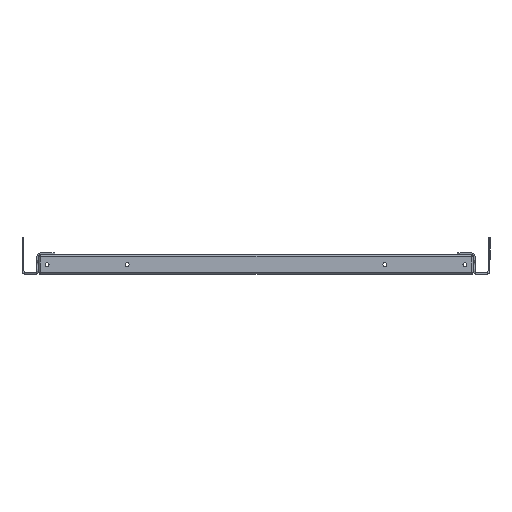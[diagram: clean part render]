
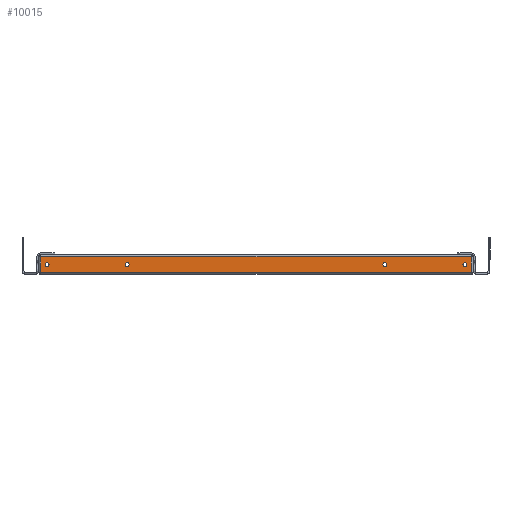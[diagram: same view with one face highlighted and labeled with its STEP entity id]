
A CAD part, left-side view. The second image highlights one B-rep face of the part: STEP entity #10015.
In plain terms, the highlighted planar face has unit normal (-1, 0, 0).
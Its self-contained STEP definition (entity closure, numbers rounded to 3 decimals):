
#16 = LINE ( 'NONE', #4891, #10132 ) ;
#312 = ORIENTED_EDGE ( 'NONE', *, *, #12540, .T. ) ;
#401 = CARTESIAN_POINT ( 'NONE',  ( -525., 225., 18. ) ) ;
#515 = EDGE_CURVE ( 'NONE', #4033, #8634, #11126, .T. ) ;
#697 = CARTESIAN_POINT ( 'NONE',  ( -525., 223., 2. ) ) ;
#850 = AXIS2_PLACEMENT_3D ( 'NONE', #6969, #8108, #1096 ) ;
#901 = DIRECTION ( 'NONE',  ( 0., 0., 1. ) ) ;
#1096 = DIRECTION ( 'NONE',  ( 0., 0., 1. ) ) ;
#1425 = DIRECTION ( 'NONE',  ( 0., 0., 1. ) ) ;
#1453 = AXIS2_PLACEMENT_3D ( 'NONE', #5690, #6733, #7824 ) ;
#1634 = EDGE_CURVE ( 'NONE', #7354, #8213, #11711, .T. ) ;
#1641 = VECTOR ( 'NONE', #7374, 1000. ) ;
#1697 = DIRECTION ( 'NONE',  ( 1., 0., 0. ) ) ;
#1729 = VECTOR ( 'NONE', #3159, 1000. ) ;
#2521 = EDGE_CURVE ( 'NONE', #10354, #3937, #9510, .T. ) ;
#2686 = DIRECTION ( 'NONE',  ( 0., 0., -1. ) ) ;
#2755 = CARTESIAN_POINT ( 'NONE',  ( -525., -225., 20. ) ) ;
#2790 = AXIS2_PLACEMENT_3D ( 'NONE', #10652, #5760, #4808 ) ;
#2800 = CARTESIAN_POINT ( 'NONE',  ( -525., 216.5, 8. ) ) ;
#2840 = CARTESIAN_POINT ( 'NONE',  ( -525., -223., 18. ) ) ;
#2947 = LINE ( 'NONE', #6065, #1729 ) ;
#3049 = VERTEX_POINT ( 'NONE', #5221 ) ;
#3159 = DIRECTION ( 'NONE',  ( 0., 0., -1. ) ) ;
#3171 = DIRECTION ( 'NONE',  ( 1., 0., 0. ) ) ;
#3190 = EDGE_CURVE ( 'NONE', #4037, #8980, #7805, .T. ) ;
#3207 = EDGE_LOOP ( 'NONE', ( #11022, #6493 ) ) ;
#3283 = AXIS2_PLACEMENT_3D ( 'NONE', #12134, #7342, #9337 ) ;
#3314 = CARTESIAN_POINT ( 'NONE',  ( -525., -216.5, 12. ) ) ;
#3405 = EDGE_LOOP ( 'NONE', ( #10735, #5815, #9498, #8453 ) ) ;
#3937 = VERTEX_POINT ( 'NONE', #12501 ) ;
#4032 = FACE_BOUND ( 'NONE', #6362, .T. ) ;
#4033 = VERTEX_POINT ( 'NONE', #2800 ) ;
#4037 = VERTEX_POINT ( 'NONE', #2840 ) ;
#4336 = FACE_BOUND ( 'NONE', #5316, .T. ) ;
#4494 = CIRCLE ( 'NONE', #11457, 2. ) ;
#4808 = DIRECTION ( 'NONE',  ( 0., 0., 1. ) ) ;
#4882 = EDGE_CURVE ( 'NONE', #11170, #9651, #4494, .T. ) ;
#4891 = CARTESIAN_POINT ( 'NONE',  ( -525., -223., 20. ) ) ;
#4917 = CARTESIAN_POINT ( 'NONE',  ( -525., -216.5, 8. ) ) ;
#5048 = ORIENTED_EDGE ( 'NONE', *, *, #9409, .F. ) ;
#5118 = AXIS2_PLACEMENT_3D ( 'NONE', #2755, #1697, #2686 ) ;
#5197 = CARTESIAN_POINT ( 'NONE',  ( -525., -133.5, 8. ) ) ;
#5221 = CARTESIAN_POINT ( 'NONE',  ( -525., -223., 2. ) ) ;
#5316 = EDGE_LOOP ( 'NONE', ( #11102, #312 ) ) ;
#5412 = FACE_BOUND ( 'NONE', #3207, .T. ) ;
#5690 = CARTESIAN_POINT ( 'NONE',  ( -525., 216.5, 10. ) ) ;
#5737 = VECTOR ( 'NONE', #8736, 1000. ) ;
#5760 = DIRECTION ( 'NONE',  ( -1., 0., 0. ) ) ;
#5815 = ORIENTED_EDGE ( 'NONE', *, *, #3190, .T. ) ;
#5985 = DIRECTION ( 'NONE',  ( 0., 0., 1. ) ) ;
#6065 = CARTESIAN_POINT ( 'NONE',  ( -525., 223., 20. ) ) ;
#6362 = EDGE_LOOP ( 'NONE', ( #10624, #9256 ) ) ;
#6493 = ORIENTED_EDGE ( 'NONE', *, *, #2521, .T. ) ;
#6658 = FACE_OUTER_BOUND ( 'NONE', #3405, .T. ) ;
#6733 = DIRECTION ( 'NONE',  ( -1., 0., 0. ) ) ;
#6819 = LINE ( 'NONE', #11734, #5737 ) ;
#6820 = DIRECTION ( 'NONE',  ( 1., 0., 0. ) ) ;
#6969 = CARTESIAN_POINT ( 'NONE',  ( -525., 133.5, 10. ) ) ;
#7021 = CARTESIAN_POINT ( 'NONE',  ( -525., 133.5, 12. ) ) ;
#7081 = CARTESIAN_POINT ( 'NONE',  ( -525., 223., 18. ) ) ;
#7191 = AXIS2_PLACEMENT_3D ( 'NONE', #8356, #12127, #1425 ) ;
#7195 = CARTESIAN_POINT ( 'NONE',  ( -525., -216.5, 10. ) ) ;
#7342 = DIRECTION ( 'NONE',  ( -1., 0., 0. ) ) ;
#7343 = AXIS2_PLACEMENT_3D ( 'NONE', #8151, #3171, #5985 ) ;
#7354 = VERTEX_POINT ( 'NONE', #12368 ) ;
#7374 = DIRECTION ( 'NONE',  ( 0., 1., 0. ) ) ;
#7589 = PLANE ( 'NONE',  #5118 ) ;
#7784 = CARTESIAN_POINT ( 'NONE',  ( -525., -216.5, 10. ) ) ;
#7805 = LINE ( 'NONE', #401, #1641 ) ;
#7824 = DIRECTION ( 'NONE',  ( 0., 0., 1. ) ) ;
#8108 = DIRECTION ( 'NONE',  ( -1., 0., 0. ) ) ;
#8151 = CARTESIAN_POINT ( 'NONE',  ( -525., -133.5, 10. ) ) ;
#8213 = VERTEX_POINT ( 'NONE', #7021 ) ;
#8330 = EDGE_CURVE ( 'NONE', #3049, #4037, #16, .T. ) ;
#8356 = CARTESIAN_POINT ( 'NONE',  ( -525., -133.5, 10. ) ) ;
#8453 = ORIENTED_EDGE ( 'NONE', *, *, #9519, .T. ) ;
#8634 = VERTEX_POINT ( 'NONE', #12655 ) ;
#8648 = EDGE_CURVE ( 'NONE', #8213, #7354, #12717, .T. ) ;
#8736 = DIRECTION ( 'NONE',  ( 0., -1., 0. ) ) ;
#8980 = VERTEX_POINT ( 'NONE', #7081 ) ;
#9246 = ORIENTED_EDGE ( 'NONE', *, *, #515, .F. ) ;
#9256 = ORIENTED_EDGE ( 'NONE', *, *, #1634, .F. ) ;
#9337 = DIRECTION ( 'NONE',  ( 0., 0., 1. ) ) ;
#9409 = EDGE_CURVE ( 'NONE', #8634, #4033, #10050, .T. ) ;
#9498 = ORIENTED_EDGE ( 'NONE', *, *, #12177, .T. ) ;
#9510 = CIRCLE ( 'NONE', #7343, 2. ) ;
#9519 = EDGE_CURVE ( 'NONE', #10894, #3049, #6819, .T. ) ;
#9568 = CIRCLE ( 'NONE', #7191, 2. ) ;
#9651 = VERTEX_POINT ( 'NONE', #4917 ) ;
#9934 = AXIS2_PLACEMENT_3D ( 'NONE', #7784, #6820, #901 ) ;
#10015 = ADVANCED_FACE ( 'NONE', ( #4032, #11694, #6658, #4336, #5412 ), #7589, .F. ) ;
#10050 = CIRCLE ( 'NONE', #1453, 2. ) ;
#10078 = DIRECTION ( 'NONE',  ( 1., 0., 0. ) ) ;
#10132 = VECTOR ( 'NONE', #10825, 1000. ) ;
#10354 = VERTEX_POINT ( 'NONE', #5197 ) ;
#10457 = CIRCLE ( 'NONE', #9934, 2. ) ;
#10624 = ORIENTED_EDGE ( 'NONE', *, *, #8648, .F. ) ;
#10652 = CARTESIAN_POINT ( 'NONE',  ( -525., 133.5, 10. ) ) ;
#10735 = ORIENTED_EDGE ( 'NONE', *, *, #8330, .T. ) ;
#10825 = DIRECTION ( 'NONE',  ( 0., 0., 1. ) ) ;
#10894 = VERTEX_POINT ( 'NONE', #697 ) ;
#11022 = ORIENTED_EDGE ( 'NONE', *, *, #12312, .T. ) ;
#11102 = ORIENTED_EDGE ( 'NONE', *, *, #4882, .T. ) ;
#11126 = CIRCLE ( 'NONE', #3283, 2. ) ;
#11170 = VERTEX_POINT ( 'NONE', #3314 ) ;
#11457 = AXIS2_PLACEMENT_3D ( 'NONE', #7195, #10078, #12065 ) ;
#11460 = EDGE_LOOP ( 'NONE', ( #5048, #9246 ) ) ;
#11694 = FACE_BOUND ( 'NONE', #11460, .T. ) ;
#11711 = CIRCLE ( 'NONE', #850, 2. ) ;
#11734 = CARTESIAN_POINT ( 'NONE',  ( -525., -225., 2. ) ) ;
#12065 = DIRECTION ( 'NONE',  ( 0., 0., 1. ) ) ;
#12127 = DIRECTION ( 'NONE',  ( 1., 0., 0. ) ) ;
#12134 = CARTESIAN_POINT ( 'NONE',  ( -525., 216.5, 10. ) ) ;
#12177 = EDGE_CURVE ( 'NONE', #8980, #10894, #2947, .T. ) ;
#12312 = EDGE_CURVE ( 'NONE', #3937, #10354, #9568, .T. ) ;
#12368 = CARTESIAN_POINT ( 'NONE',  ( -525., 133.5, 8. ) ) ;
#12501 = CARTESIAN_POINT ( 'NONE',  ( -525., -133.5, 12. ) ) ;
#12540 = EDGE_CURVE ( 'NONE', #9651, #11170, #10457, .T. ) ;
#12655 = CARTESIAN_POINT ( 'NONE',  ( -525., 216.5, 12. ) ) ;
#12717 = CIRCLE ( 'NONE', #2790, 2. ) ;
